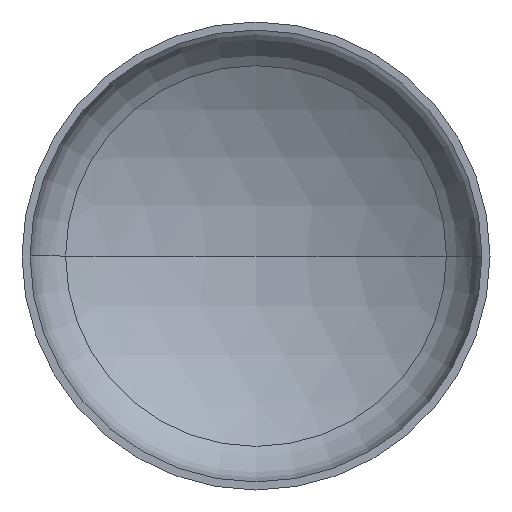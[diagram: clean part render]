
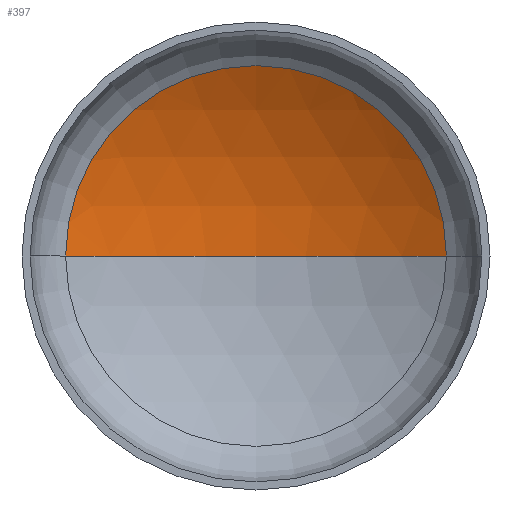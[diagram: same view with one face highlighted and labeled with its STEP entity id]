
A CAD part, front view. The second image highlights one B-rep face of the part: STEP entity #397.
In plain terms, the highlighted spherical face has radius 880 mm.
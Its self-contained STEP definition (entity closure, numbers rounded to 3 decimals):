
#6 = EDGE_LOOP ( 'NONE', ( #36, #136, #139 ) ) ;
#11 = CARTESIAN_POINT ( 'NONE',  ( 0., 206.385, 0. ) ) ;
#17 = CARTESIAN_POINT ( 'NONE',  ( 0., -551.375, 0. ) ) ;
#28 = CARTESIAN_POINT ( 'NONE',  ( 447.437, 206.385, 0. ) ) ;
#36 = ORIENTED_EDGE ( 'NONE', *, *, #109, .F. ) ;
#42 = AXIS2_PLACEMENT_3D ( 'NONE', #371, #222, #191 ) ;
#43 = AXIS2_PLACEMENT_3D ( 'NONE', #17, #292, #251 ) ;
#44 = AXIS2_PLACEMENT_3D ( 'NONE', #11, #154, #320 ) ;
#54 = VERTEX_POINT ( 'NONE', #232 ) ;
#103 = EDGE_CURVE ( 'NONE', #110, #145, #352, .T. ) ;
#104 = EDGE_CURVE ( 'NONE', #54, #110, #280, .T. ) ;
#109 = EDGE_CURVE ( 'NONE', #54, #145, #216, .T. ) ;
#110 = VERTEX_POINT ( 'NONE', #28 ) ;
#136 = ORIENTED_EDGE ( 'NONE', *, *, #104, .T. ) ;
#139 = ORIENTED_EDGE ( 'NONE', *, *, #103, .T. ) ;
#145 = VERTEX_POINT ( 'NONE', #210 ) ;
#154 = DIRECTION ( 'NONE',  ( 0., -1., 0. ) ) ;
#182 = CARTESIAN_POINT ( 'NONE',  ( 0., -551.375, 0. ) ) ;
#191 = DIRECTION ( 'NONE',  ( 1., 0., 0. ) ) ;
#210 = CARTESIAN_POINT ( 'NONE',  ( -447.437, 206.385, 0. ) ) ;
#216 = CIRCLE ( 'NONE', #42, 880. ) ;
#217 = SPHERICAL_SURFACE ( 'NONE', #330, 880. ) ;
#222 = DIRECTION ( 'NONE',  ( 0., 0., 1. ) ) ;
#225 = FACE_OUTER_BOUND ( 'NONE', #6, .T. ) ;
#232 = CARTESIAN_POINT ( 'NONE',  ( 0., 328.625, 0. ) ) ;
#251 = DIRECTION ( 'NONE',  ( -1., 0., 0. ) ) ;
#280 = CIRCLE ( 'NONE', #43, 880. ) ;
#292 = DIRECTION ( 'NONE',  ( 0., 0., -1. ) ) ;
#302 = DIRECTION ( 'NONE',  ( -1., 0., 0. ) ) ;
#303 = DIRECTION ( 'NONE',  ( 0., 0., -1. ) ) ;
#320 = DIRECTION ( 'NONE',  ( 1., 0., 0. ) ) ;
#330 = AXIS2_PLACEMENT_3D ( 'NONE', #182, #303, #302 ) ;
#352 = CIRCLE ( 'NONE', #44, 447.437 ) ;
#371 = CARTESIAN_POINT ( 'NONE',  ( 0., -551.375, 0. ) ) ;
#397 = ADVANCED_FACE ( 'NONE', ( #225 ), #217, .F. ) ;
